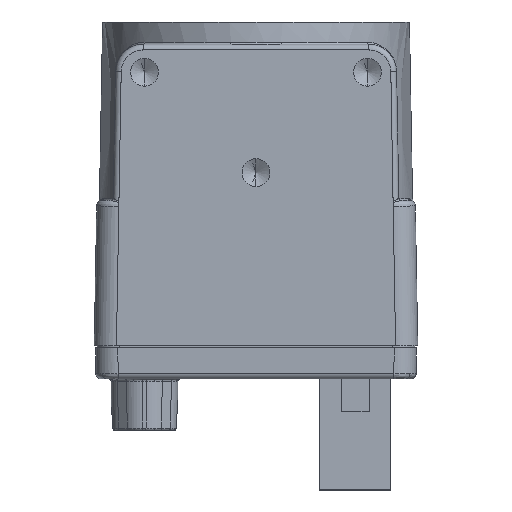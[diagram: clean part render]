
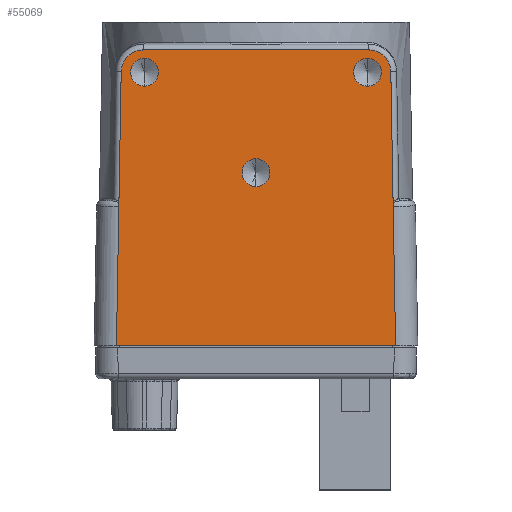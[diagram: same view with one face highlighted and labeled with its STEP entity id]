
A CAD part, front view. The second image highlights one B-rep face of the part: STEP entity #55069.
In plain terms, the highlighted planar face has unit normal (0, -1, 0).
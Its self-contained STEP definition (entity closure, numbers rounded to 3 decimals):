
#499 = AXIS2_PLACEMENT_3D ( 'NONE', #67190, #1967, #26224 ) ;
#742 = CARTESIAN_POINT ( 'NONE',  ( -10., -14.5, -3.25 ) ) ;
#1523 = ORIENTED_EDGE ( 'NONE', *, *, #28768, .T. ) ;
#1784 = CIRCLE ( 'NONE', #499, 1.25 ) ;
#1967 = DIRECTION ( 'NONE',  ( 0., -1., 0. ) ) ;
#2224 = EDGE_CURVE ( 'NONE', #42269, #11689, #31630, .T. ) ;
#2686 = CARTESIAN_POINT ( 'NONE',  ( 12.511, -14.5, -29. ) ) ;
#4324 = LINE ( 'NONE', #41212, #49572 ) ;
#5208 = LINE ( 'NONE', #24688, #69050 ) ;
#7310 = LINE ( 'NONE', #48243, #77579 ) ;
#10509 = VERTEX_POINT ( 'NONE', #20692 ) ;
#11689 = VERTEX_POINT ( 'NONE', #2686 ) ;
#11734 = CARTESIAN_POINT ( 'NONE',  ( 0., -14.5, 0.3 ) ) ;
#12053 = CARTESIAN_POINT ( 'NONE',  ( -12., -14.5, -2.5 ) ) ;
#13136 = EDGE_CURVE ( 'NONE', #76806, #46676, #72824, .T. ) ;
#13276 = DIRECTION ( 'NONE',  ( 1., 0., 0. ) ) ;
#13354 = CARTESIAN_POINT ( 'NONE',  ( -14.5, -14.5, -29. ) ) ;
#14484 = CARTESIAN_POINT ( 'NONE',  ( 0., -14.5, -14.75 ) ) ;
#14723 = CIRCLE ( 'NONE', #69315, 1.25 ) ;
#14797 = ORIENTED_EDGE ( 'NONE', *, *, #74774, .F. ) ;
#16250 = CARTESIAN_POINT ( 'NONE',  ( 12., -14.5, 0.3 ) ) ;
#17891 = VECTOR ( 'NONE', #47158, 1000. ) ;
#18128 = EDGE_CURVE ( 'NONE', #23359, #43160, #26380, .T. ) ;
#18231 = CARTESIAN_POINT ( 'NONE',  ( -10., -14.5, -5.75 ) ) ;
#18237 = CIRCLE ( 'NONE', #72849, 1.25 ) ;
#18722 = VERTEX_POINT ( 'NONE', #42462 ) ;
#20391 = CARTESIAN_POINT ( 'NONE',  ( 12.293, -14.5, -16.5 ) ) ;
#20571 = ORIENTED_EDGE ( 'NONE', *, *, #29122, .T. ) ;
#20692 = CARTESIAN_POINT ( 'NONE',  ( -12.293, -14.5, -16.5 ) ) ;
#21902 = DIRECTION ( 'NONE',  ( -0.017, 0., 1. ) ) ;
#22692 = ORIENTED_EDGE ( 'NONE', *, *, #74594, .T. ) ;
#22888 = EDGE_CURVE ( 'NONE', #62480, #18722, #14723, .T. ) ;
#23359 = VERTEX_POINT ( 'NONE', #28142 ) ;
#24126 = DIRECTION ( 'NONE',  ( 0., 0., -1. ) ) ;
#24450 = DIRECTION ( 'NONE',  ( 0., -1., 0. ) ) ;
#24533 = DIRECTION ( 'NONE',  ( 0., -1., 0. ) ) ;
#24688 = CARTESIAN_POINT ( 'NONE',  ( -12., -14.5, 0.3 ) ) ;
#25215 = VERTEX_POINT ( 'NONE', #742 ) ;
#25300 = DIRECTION ( 'NONE',  ( 0., -1., 0. ) ) ;
#25711 = DIRECTION ( 'NONE',  ( 1., 0., 0. ) ) ;
#26056 = ORIENTED_EDGE ( 'NONE', *, *, #18128, .F. ) ;
#26084 = DIRECTION ( 'NONE',  ( 1., 0., 0. ) ) ;
#26224 = DIRECTION ( 'NONE',  ( 0., 0., -1. ) ) ;
#26289 = EDGE_CURVE ( 'NONE', #43160, #23359, #75036, .T. ) ;
#26380 = CIRCLE ( 'NONE', #63118, 1.25 ) ;
#26816 = AXIS2_PLACEMENT_3D ( 'NONE', #44907, #75219, #33040 ) ;
#26950 = CARTESIAN_POINT ( 'NONE',  ( 10., -14.5, -3.25 ) ) ;
#27255 = AXIS2_PLACEMENT_3D ( 'NONE', #42712, #24533, #48671 ) ;
#28142 = CARTESIAN_POINT ( 'NONE',  ( 10., -14.5, -5.75 ) ) ;
#28768 = EDGE_CURVE ( 'NONE', #11689, #33429, #35284, .T. ) ;
#29122 = EDGE_CURVE ( 'NONE', #76806, #10509, #7310, .T. ) ;
#31009 = ORIENTED_EDGE ( 'NONE', *, *, #22888, .F. ) ;
#31630 = LINE ( 'NONE', #13354, #60706 ) ;
#31946 = EDGE_CURVE ( 'NONE', #25215, #60966, #59038, .T. ) ;
#33040 = DIRECTION ( 'NONE',  ( 0., 0., -1. ) ) ;
#33429 = VERTEX_POINT ( 'NONE', #20391 ) ;
#33943 = EDGE_LOOP ( 'NONE', ( #14797, #43077 ) ) ;
#34377 = FACE_BOUND ( 'NONE', #38475, .T. ) ;
#35161 = AXIS2_PLACEMENT_3D ( 'NONE', #11734, #24450, #42235 ) ;
#35284 = LINE ( 'NONE', #16250, #17891 ) ;
#37428 = EDGE_LOOP ( 'NONE', ( #63319, #1523, #47318, #56245, #22692, #61152, #20571, #57473 ) ) ;
#38475 = EDGE_LOOP ( 'NONE', ( #31009, #52514 ) ) ;
#40006 = CARTESIAN_POINT ( 'NONE',  ( 10., -14.5, -4.5 ) ) ;
#40254 = CARTESIAN_POINT ( 'NONE',  ( 0., -14.5, -13.5 ) ) ;
#40640 = ORIENTED_EDGE ( 'NONE', *, *, #26289, .F. ) ;
#41212 = CARTESIAN_POINT ( 'NONE',  ( 12., -14.5, 0.3 ) ) ;
#42235 = DIRECTION ( 'NONE',  ( 1., 0., 0. ) ) ;
#42269 = VERTEX_POINT ( 'NONE', #78261 ) ;
#42462 = CARTESIAN_POINT ( 'NONE',  ( 0., -14.5, -12.25 ) ) ;
#42712 = CARTESIAN_POINT ( 'NONE',  ( -10., -14.5, -4.5 ) ) ;
#43077 = ORIENTED_EDGE ( 'NONE', *, *, #31946, .F. ) ;
#43160 = VERTEX_POINT ( 'NONE', #26950 ) ;
#43400 = VERTEX_POINT ( 'NONE', #57043 ) ;
#44581 = CARTESIAN_POINT ( 'NONE',  ( -10.083, -14.5, -4.5 ) ) ;
#44735 = CARTESIAN_POINT ( 'NONE',  ( -12.083, -14.5, -4.465 ) ) ;
#44907 = CARTESIAN_POINT ( 'NONE',  ( 10., -14.5, -4.5 ) ) ;
#46676 = VERTEX_POINT ( 'NONE', #78085 ) ;
#47158 = DIRECTION ( 'NONE',  ( -0.017, 0., 1. ) ) ;
#47277 = DIRECTION ( 'NONE',  ( -0.017, 0., -1. ) ) ;
#47318 = ORIENTED_EDGE ( 'NONE', *, *, #66974, .T. ) ;
#47545 = DIRECTION ( 'NONE',  ( 0., 0., -1. ) ) ;
#47880 = EDGE_CURVE ( 'NONE', #18722, #62480, #18237, .T. ) ;
#48243 = CARTESIAN_POINT ( 'NONE',  ( -12., -14.5, 0.3 ) ) ;
#48671 = DIRECTION ( 'NONE',  ( 0., 0., -1. ) ) ;
#49058 = CARTESIAN_POINT ( 'NONE',  ( 0., -14.5, -13.5 ) ) ;
#49224 = CARTESIAN_POINT ( 'NONE',  ( 10.083, -14.5, -2.5 ) ) ;
#49572 = VECTOR ( 'NONE', #21902, 1000. ) ;
#49805 = EDGE_LOOP ( 'NONE', ( #26056, #40640 ) ) ;
#52026 = CIRCLE ( 'NONE', #73663, 2. ) ;
#52511 = VECTOR ( 'NONE', #72530, 1000. ) ;
#52514 = ORIENTED_EDGE ( 'NONE', *, *, #47880, .F. ) ;
#53168 = DIRECTION ( 'NONE',  ( 0., -1., 0. ) ) ;
#54035 = EDGE_CURVE ( 'NONE', #75664, #43400, #52026, .T. ) ;
#55069 = ADVANCED_FACE ( 'NONE', ( #70623, #64597, #34377, #78119 ), #74107, .T. ) ;
#55479 = DIRECTION ( 'NONE',  ( -0.017, 0., -1. ) ) ;
#56245 = ORIENTED_EDGE ( 'NONE', *, *, #54035, .F. ) ;
#57043 = CARTESIAN_POINT ( 'NONE',  ( 12.083, -14.5, -4.465 ) ) ;
#57473 = ORIENTED_EDGE ( 'NONE', *, *, #75632, .T. ) ;
#59038 = CIRCLE ( 'NONE', #27255, 1.25 ) ;
#60706 = VECTOR ( 'NONE', #25711, 1000. ) ;
#60966 = VERTEX_POINT ( 'NONE', #18231 ) ;
#61152 = ORIENTED_EDGE ( 'NONE', *, *, #13136, .F. ) ;
#62480 = VERTEX_POINT ( 'NONE', #14484 ) ;
#62578 = AXIS2_PLACEMENT_3D ( 'NONE', #44581, #68944, #13276 ) ;
#62609 = DIRECTION ( 'NONE',  ( 0., 1., 0. ) ) ;
#63118 = AXIS2_PLACEMENT_3D ( 'NONE', #40006, #53168, #47545 ) ;
#63319 = ORIENTED_EDGE ( 'NONE', *, *, #2224, .T. ) ;
#64597 = FACE_BOUND ( 'NONE', #49805, .T. ) ;
#65381 = DIRECTION ( 'NONE',  ( 0., -1., 0. ) ) ;
#66974 = EDGE_CURVE ( 'NONE', #33429, #43400, #4324, .T. ) ;
#67190 = CARTESIAN_POINT ( 'NONE',  ( -10., -14.5, -4.5 ) ) ;
#68944 = DIRECTION ( 'NONE',  ( 0., 1., 0. ) ) ;
#69050 = VECTOR ( 'NONE', #47277, 1000. ) ;
#69315 = AXIS2_PLACEMENT_3D ( 'NONE', #40254, #65381, #78479 ) ;
#70623 = FACE_BOUND ( 'NONE', #33943, .T. ) ;
#71737 = LINE ( 'NONE', #12053, #52511 ) ;
#72530 = DIRECTION ( 'NONE',  ( -1., 0., 0. ) ) ;
#72824 = CIRCLE ( 'NONE', #62578, 2. ) ;
#72849 = AXIS2_PLACEMENT_3D ( 'NONE', #49058, #25300, #24126 ) ;
#73663 = AXIS2_PLACEMENT_3D ( 'NONE', #74963, #62609, #26084 ) ;
#74107 = PLANE ( 'NONE',  #35161 ) ;
#74594 = EDGE_CURVE ( 'NONE', #75664, #46676, #71737, .T. ) ;
#74774 = EDGE_CURVE ( 'NONE', #60966, #25215, #1784, .T. ) ;
#74963 = CARTESIAN_POINT ( 'NONE',  ( 10.083, -14.5, -4.5 ) ) ;
#75036 = CIRCLE ( 'NONE', #26816, 1.25 ) ;
#75219 = DIRECTION ( 'NONE',  ( 0., -1., 0. ) ) ;
#75632 = EDGE_CURVE ( 'NONE', #10509, #42269, #5208, .T. ) ;
#75664 = VERTEX_POINT ( 'NONE', #49224 ) ;
#76806 = VERTEX_POINT ( 'NONE', #44735 ) ;
#77579 = VECTOR ( 'NONE', #55479, 1000. ) ;
#78085 = CARTESIAN_POINT ( 'NONE',  ( -10.083, -14.5, -2.5 ) ) ;
#78119 = FACE_OUTER_BOUND ( 'NONE', #37428, .T. ) ;
#78261 = CARTESIAN_POINT ( 'NONE',  ( -12.511, -14.5, -29. ) ) ;
#78479 = DIRECTION ( 'NONE',  ( 0., 0., -1. ) ) ;
